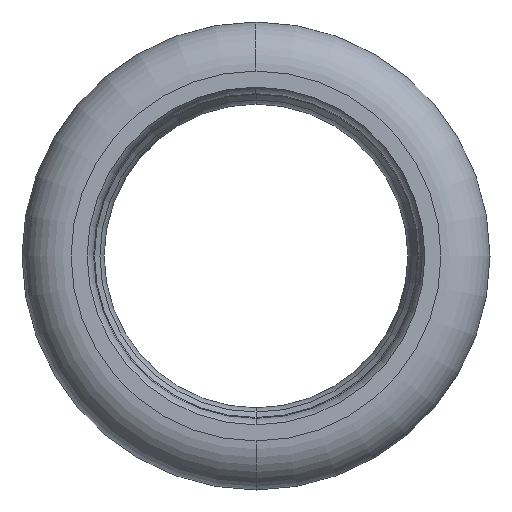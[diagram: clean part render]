
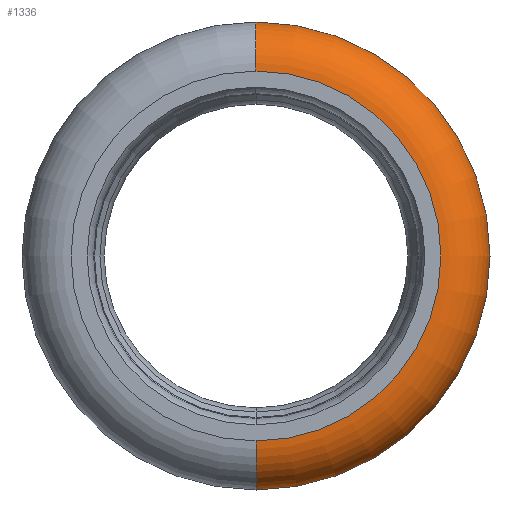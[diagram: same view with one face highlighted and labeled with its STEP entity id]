
A CAD part, left-side view. The second image highlights one B-rep face of the part: STEP entity #1336.
In plain terms, the highlighted toroidal (fillet/blend) face has major radius 10.35 mm and minor radius 2.75 mm.
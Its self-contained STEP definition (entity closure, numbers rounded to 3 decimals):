
#34 = CARTESIAN_POINT ( 'NONE',  ( -21.25, 0., -10.35 ) ) ;
#43 = DIRECTION ( 'NONE',  ( 0., -1., 0. ) ) ;
#53 = VERTEX_POINT ( 'NONE', #696 ) ;
#139 = CIRCLE ( 'NONE', #500, 2.75 ) ;
#159 = DIRECTION ( 'NONE',  ( 1., 0., 0. ) ) ;
#217 = CARTESIAN_POINT ( 'NONE',  ( -24., 0., 0. ) ) ;
#334 = DIRECTION ( 'NONE',  ( 0., 0., -1. ) ) ;
#351 = CIRCLE ( 'NONE', #580, 2.75 ) ;
#379 = DIRECTION ( 'NONE',  ( 0., 0., 1. ) ) ;
#405 = ORIENTED_EDGE ( 'NONE', *, *, #1254, .F. ) ;
#500 = AXIS2_PLACEMENT_3D ( 'NONE', #34, #43, #334 ) ;
#544 = CARTESIAN_POINT ( 'NONE',  ( -19.557, 0., -12.517 ) ) ;
#570 = EDGE_LOOP ( 'NONE', ( #1369, #719, #405, #1323 ) ) ;
#580 = AXIS2_PLACEMENT_3D ( 'NONE', #702, #1183, #1806 ) ;
#696 = CARTESIAN_POINT ( 'NONE',  ( -24., 0., 10.35 ) ) ;
#702 = CARTESIAN_POINT ( 'NONE',  ( -21.25, 0., 10.35 ) ) ;
#719 = ORIENTED_EDGE ( 'NONE', *, *, #1045, .T. ) ;
#809 = VERTEX_POINT ( 'NONE', #882 ) ;
#823 = DIRECTION ( 'NONE',  ( 1., 0., 0. ) ) ;
#882 = CARTESIAN_POINT ( 'NONE',  ( -19.557, 0., 12.517 ) ) ;
#1045 = EDGE_CURVE ( 'NONE', #1770, #1793, #139, .T. ) ;
#1056 = CIRCLE ( 'NONE', #1947, 10.35 ) ;
#1084 = CARTESIAN_POINT ( 'NONE',  ( -21.25, 0., 0. ) ) ;
#1169 = CARTESIAN_POINT ( 'NONE',  ( -24., 0., -10.35 ) ) ;
#1183 = DIRECTION ( 'NONE',  ( 0., 1., 0. ) ) ;
#1210 = DIRECTION ( 'NONE',  ( 0., 0., 1. ) ) ;
#1254 = EDGE_CURVE ( 'NONE', #809, #1793, #1506, .T. ) ;
#1308 = AXIS2_PLACEMENT_3D ( 'NONE', #1857, #159, #1210 ) ;
#1323 = ORIENTED_EDGE ( 'NONE', *, *, #1801, .F. ) ;
#1336 = ADVANCED_FACE ( 'NONE', ( #1691 ), #1537, .T. ) ;
#1369 = ORIENTED_EDGE ( 'NONE', *, *, #1631, .T. ) ;
#1400 = DIRECTION ( 'NONE',  ( 1., 0., 0. ) ) ;
#1506 = CIRCLE ( 'NONE', #1308, 12.517 ) ;
#1526 = AXIS2_PLACEMENT_3D ( 'NONE', #1084, #1400, #1710 ) ;
#1537 = TOROIDAL_SURFACE ( 'NONE', #1526, 10.35, 2.75 ) ;
#1631 = EDGE_CURVE ( 'NONE', #53, #1770, #1056, .T. ) ;
#1691 = FACE_OUTER_BOUND ( 'NONE', #570, .T. ) ;
#1710 = DIRECTION ( 'NONE',  ( 0., 0., 1. ) ) ;
#1770 = VERTEX_POINT ( 'NONE', #1169 ) ;
#1793 = VERTEX_POINT ( 'NONE', #544 ) ;
#1801 = EDGE_CURVE ( 'NONE', #53, #809, #351, .T. ) ;
#1806 = DIRECTION ( 'NONE',  ( 0., 0., 1. ) ) ;
#1857 = CARTESIAN_POINT ( 'NONE',  ( -19.557, 0., 0. ) ) ;
#1947 = AXIS2_PLACEMENT_3D ( 'NONE', #217, #823, #379 ) ;
